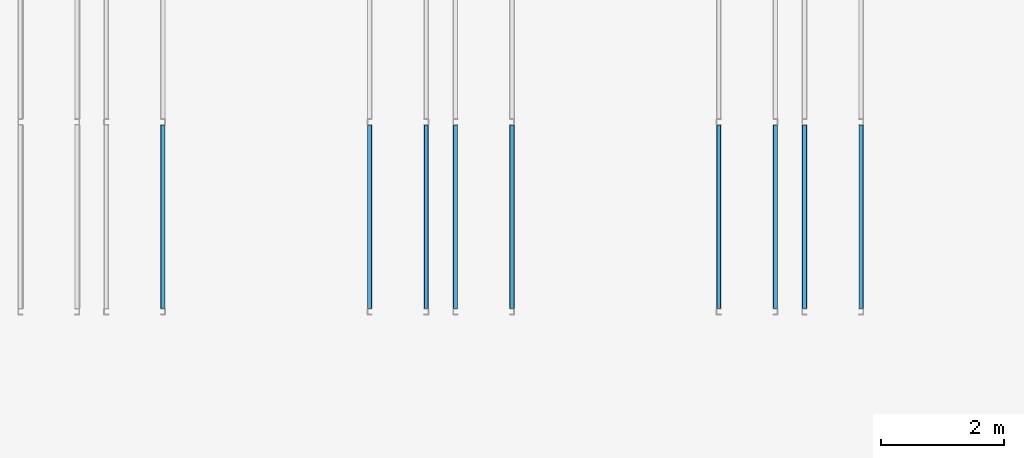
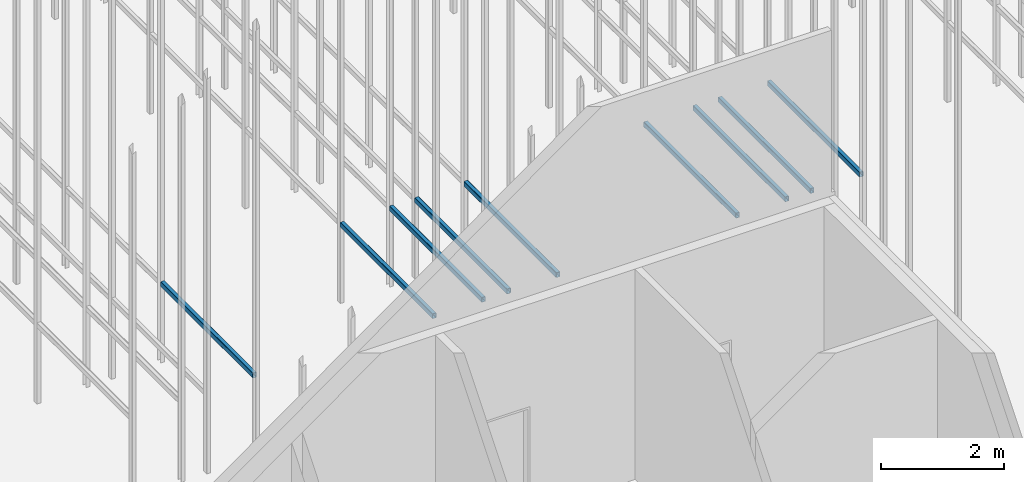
# One storey, part 139 of 302: 9 beams.
"""IFC2X3 building model written with IfcOpenShell, lengths in metres."""

from ifc_helpers import new_model, entity, si_unit, converted_unit, derived_unit, direction, frame, frame_2d, origin, place, context, subcontext, project, spatial, polyline, circle_curve, parameter, trimmed, segment, composite_curve, outline, extrude, material, type_object, element, save


model = new_model("IFC2X3")

# Units and contexts
model_context = context("Model", 3, precision=1e-05, world=origin(), true_north=direction((6.12303176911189e-17, 1.0)))
body_context = subcontext(model_context, "Body", "Model", "MODEL_VIEW")
ifc_project = project(units=[si_unit("LENGTHUNIT", "METRE"), si_unit("AREAUNIT", "SQUARE_METRE"), si_unit("VOLUMEUNIT", "CUBIC_METRE"), converted_unit("PLANEANGLEUNIT", "DEGREE", entity("IfcRatioMeasure", 0.0174532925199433), si_unit("PLANEANGLEUNIT", "RADIAN"), dimensions=[0, 0, 0, 0, 0, 0, 0]), si_unit("MASSUNIT", "GRAM", prefix="KILO"), derived_unit("MASSDENSITYUNIT", [(si_unit("MASSUNIT", "GRAM", prefix="KILO"), 1), (si_unit("LENGTHUNIT", "METRE"), -3)]), derived_unit("MOMENTOFINERTIAUNIT", [(si_unit("LENGTHUNIT", "METRE"), 4)]), si_unit("TIMEUNIT", "SECOND"), si_unit("FREQUENCYUNIT", "HERTZ"), si_unit("THERMODYNAMICTEMPERATUREUNIT", "DEGREE_CELSIUS"), derived_unit("THERMALTRANSMITTANCEUNIT", [(si_unit("MASSUNIT", "GRAM", prefix="KILO"), 1), (si_unit("THERMODYNAMICTEMPERATUREUNIT", "KELVIN"), -1), (si_unit("TIMEUNIT", "SECOND"), -3)]), derived_unit("VOLUMETRICFLOWRATEUNIT", [(si_unit("LENGTHUNIT", "METRE"), 3), (si_unit("TIMEUNIT", "SECOND"), -1)]), si_unit("ELECTRICCURRENTUNIT", "AMPERE"), si_unit("ELECTRICVOLTAGEUNIT", "VOLT"), si_unit("POWERUNIT", "WATT"), si_unit("FORCEUNIT", "NEWTON", prefix="KILO"), si_unit("ILLUMINANCEUNIT", "LUX"), si_unit("LUMINOUSFLUXUNIT", "LUMEN"), si_unit("LUMINOUSINTENSITYUNIT", "CANDELA"), derived_unit("USERDEFINED", [(si_unit("MASSUNIT", "GRAM", prefix="KILO"), -1), (si_unit("LENGTHUNIT", "METRE"), -2), (si_unit("TIMEUNIT", "SECOND"), 3), (si_unit("LUMINOUSFLUXUNIT", "LUMEN"), 1)]), derived_unit("LINEARVELOCITYUNIT", [(si_unit("LENGTHUNIT", "METRE"), 1), (si_unit("TIMEUNIT", "SECOND"), -1)]), si_unit("PRESSUREUNIT", "PASCAL"), derived_unit("USERDEFINED", [(si_unit("LENGTHUNIT", "METRE"), -2), (si_unit("MASSUNIT", "GRAM", prefix="KILO"), 1), (si_unit("TIMEUNIT", "SECOND"), -2)]), derived_unit("LINEARFORCEUNIT", [(si_unit("MASSUNIT", "GRAM", prefix="KILO"), 1), (si_unit("LENGTHUNIT", "METRE"), 1), (si_unit("TIMEUNIT", "SECOND"), -2), (si_unit("LENGTHUNIT", "METRE"), -1)]), derived_unit("PLANARFORCEUNIT", [(si_unit("MASSUNIT", "GRAM", prefix="KILO"), 1), (si_unit("LENGTHUNIT", "METRE"), 1), (si_unit("TIMEUNIT", "SECOND"), -2), (si_unit("LENGTHUNIT", "METRE"), -2)])], contexts=[model_context])

# Site, building, storey
site_placement = place(None, origin())
site = spatial("IfcSite", under=ifc_project, at=site_placement, Name="Default", CompositionType="ELEMENT")
building_placement = place(site_placement, origin())
building = spatial("IfcBuilding", under=site, at=building_placement, CompositionType="ELEMENT")
storey_placement = place(building_placement, frame((0.0, 0.0, -1.3)))
storey = spatial("IfcBuildingStorey", under=building, at=storey_placement, Name="00_EG", CompositionType="ELEMENT", Elevation=-1.3)

# Beams
ifc_material = material(Name="Metall - Baustahl S235 blau")
beam_type = type_object("IfcBeamType", Name="RHS Träger (EN 10219-2):RHS 100 x 75 x 5", PredefinedType="NOTDEFINED")
beam_1_placement = place(storey_placement, frame((-196.415111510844, 27.148088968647, 2.885), z_axis=(0.0, 0.0, 1.0), x_axis=(0.0, 1.0, 0.0)))
element("IfcBeam", 1, at=beam_1_placement, inside=storey, type_object=beam_type, material=ifc_material, Name="RHS Träger (EN 10219-2):RHS 100 x 75 x 5", ObjectType="RHS Träger (EN 10219-2):RHS 100 x 75 x 5", context=body_context, shape_type="SweptSolid", body=[
    extrude(outline(composite_curve([segment(trimmed(circle_curve(frame_2d((-0.0274999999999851, -0.0400000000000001), x_axis=(1.0, 0.0)), 0.01), [parameter(180.0)], [parameter(270.0)], True, "PARAMETER"), True, "CONTINUOUS"), segment(polyline([(-0.0274999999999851, -0.05), (0.0274999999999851, -0.05)]), True, "CONTINUOUS"), segment(trimmed(circle_curve(frame_2d((0.0274999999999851, -0.0400000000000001), x_axis=(1.0, 0.0)), 0.01), [parameter(270.0)], [parameter(5.08888749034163e-14)], True, "PARAMETER"), True, "CONTINUOUS"), segment(polyline([(0.0375000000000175, -0.0399999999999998), (0.0375000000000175, 0.0400000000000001)]), True, "CONTINUOUS"), segment(trimmed(circle_curve(frame_2d((0.0274999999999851, 0.0399999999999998), x_axis=(1.0, 0.0)), 0.01), [parameter(360.0)], [parameter(89.9999999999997)], True, "PARAMETER"), True, "CONTINUOUS"), segment(polyline([(0.0274999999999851, 0.05), (-0.0274999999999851, 0.05)]), True, "CONTINUOUS"), segment(trimmed(circle_curve(frame_2d((-0.0274999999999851, 0.0399999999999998), x_axis=(1.0, 0.0)), 0.01), [parameter(90.0000000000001)], [parameter(180.0)], True, "PARAMETER"), True, "CONTINUOUS"), segment(polyline([(-0.0374999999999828, 0.0400000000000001), (-0.0374999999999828, -0.0399999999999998)]), True, "CONTINUOUS")], self_intersect=False), holes=[composite_curve([segment(polyline([(0.0274999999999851, -0.0450000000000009), (-0.0274999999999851, -0.0450000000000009)]), True, "CONTINUOUS"), segment(trimmed(circle_curve(frame_2d((-0.0274999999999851, -0.0400000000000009), x_axis=(1.0, 0.0)), 0.005), [parameter(180.0)], [parameter(270.0)], True, "PARAMETER"), False, "CONTINUOUS"), segment(polyline([(-0.0325000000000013, -0.0400000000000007), (-0.0325000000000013, 0.0399999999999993)]), True, "CONTINUOUS"), segment(trimmed(circle_curve(frame_2d((-0.0274999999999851, 0.039999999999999), x_axis=(1.0, 0.0)), 0.005), [parameter(90.0000000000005)], [parameter(180.0)], True, "PARAMETER"), False, "CONTINUOUS"), segment(polyline([(-0.0274999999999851, 0.0449999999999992), (0.0274999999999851, 0.0449999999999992)]), True, "CONTINUOUS"), segment(trimmed(circle_curve(frame_2d((0.0274999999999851, 0.039999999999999), x_axis=(1.0, 0.0)), 0.005), [parameter(0.0)], [parameter(90.0000000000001)], True, "PARAMETER"), False, "CONTINUOUS"), segment(polyline([(0.0325000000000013, 0.0399999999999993), (0.0325000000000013, -0.0400000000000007)]), True, "CONTINUOUS"), segment(trimmed(circle_curve(frame_2d((0.0274999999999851, -0.0400000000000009), x_axis=(1.0, 0.0)), 0.005), [parameter(270.0)], [parameter(4.07110999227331e-13)], True, "PARAMETER"), False, "CONTINUOUS")], self_intersect=False)]), frame((9.99999999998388e-05, 0.0375000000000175, -0.0500000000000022), z_axis=(1.0, 0.0, 0.0), x_axis=(0.0, -1.0, 0.0)), (0.0, 0.0, 1.0), 2.9998),
])
beam_2_placement = place(storey_placement, frame((-195.565111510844, 27.148088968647, 2.885), z_axis=(0.0, 0.0, 1.0), x_axis=(0.0, 1.0, 0.0)))
element("IfcBeam", 2, at=beam_2_placement, inside=storey, type_object=beam_type, material=ifc_material, Name="RHS Träger (EN 10219-2):RHS 100 x 75 x 5", ObjectType="RHS Träger (EN 10219-2):RHS 100 x 75 x 5", context=body_context, shape_type="SweptSolid", body=[
    extrude(outline(composite_curve([segment(polyline([(-0.0399999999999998, -0.0374999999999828), (0.0400000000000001, -0.0374999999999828)]), True, "CONTINUOUS"), segment(trimmed(circle_curve(frame_2d((0.0399999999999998, -0.0274999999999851), x_axis=(0.0, 1.0)), 0.01), [parameter(180.0)], [parameter(270.0)], True, "PARAMETER"), True, "CONTINUOUS"), segment(polyline([(0.05, -0.0274999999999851), (0.05, 0.0274999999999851)]), True, "CONTINUOUS"), segment(trimmed(circle_curve(frame_2d((0.0399999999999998, 0.0274999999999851), x_axis=(0.0, 1.0)), 0.01), [parameter(270.0)], [parameter(4.07110999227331e-13)], True, "PARAMETER"), True, "CONTINUOUS"), segment(polyline([(0.0400000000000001, 0.0375000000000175), (-0.0399999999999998, 0.0375000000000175)]), True, "CONTINUOUS"), segment(trimmed(circle_curve(frame_2d((-0.0400000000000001, 0.0274999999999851), x_axis=(0.0, 1.0)), 0.01), [parameter(360.0)], [parameter(90.0000000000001)], True, "PARAMETER"), True, "CONTINUOUS"), segment(polyline([(-0.05, 0.0274999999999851), (-0.05, -0.0274999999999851)]), True, "CONTINUOUS"), segment(trimmed(circle_curve(frame_2d((-0.0400000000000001, -0.0274999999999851), x_axis=(0.0, 1.0)), 0.01), [parameter(90.0000000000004)], [parameter(180.0)], True, "PARAMETER"), True, "CONTINUOUS")], self_intersect=False), holes=[composite_curve([segment(trimmed(circle_curve(frame_2d((-0.0400000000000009, 0.0274999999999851), x_axis=(0.0, 1.0)), 0.005), [parameter(360.0)], [parameter(89.9999999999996)], True, "PARAMETER"), False, "CONTINUOUS"), segment(polyline([(-0.0400000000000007, 0.0325000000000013), (0.0399999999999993, 0.0325000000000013)]), True, "CONTINUOUS"), segment(trimmed(circle_curve(frame_2d((0.039999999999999, 0.0274999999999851), x_axis=(0.0, 1.0)), 0.005), [parameter(270.0)], [parameter(0.0)], True, "PARAMETER"), False, "CONTINUOUS"), segment(polyline([(0.0449999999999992, 0.0274999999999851), (0.0449999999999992, -0.0274999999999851)]), True, "CONTINUOUS"), segment(trimmed(circle_curve(frame_2d((0.039999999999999, -0.0274999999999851), x_axis=(0.0, 1.0)), 0.005), [parameter(180.0)], [parameter(269.999999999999)], True, "PARAMETER"), False, "CONTINUOUS"), segment(polyline([(0.0399999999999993, -0.0325000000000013), (-0.0400000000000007, -0.0325000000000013)]), True, "CONTINUOUS"), segment(trimmed(circle_curve(frame_2d((-0.0400000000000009, -0.0274999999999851), x_axis=(0.0, 1.0)), 0.005), [parameter(90.0000000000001)], [parameter(180.0)], True, "PARAMETER"), False, "CONTINUOUS"), segment(polyline([(-0.0450000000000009, -0.0274999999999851), (-0.0450000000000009, 0.0274999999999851)]), True, "CONTINUOUS")], self_intersect=False)]), frame((9.99999999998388e-05, -0.0375000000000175, -0.0500000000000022), z_axis=(1.0, 0.0, 0.0), x_axis=(0.0, 0.0, -1.0)), (0.0, 0.0, 1.0), 2.9998),
])
beam_3_placement = place(storey_placement, frame((-195.015111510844, 27.148088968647, 2.885), z_axis=(0.0, 0.0, 1.0), x_axis=(0.0, 1.0, 0.0)))
element("IfcBeam", 3, at=beam_3_placement, inside=storey, type_object=beam_type, material=ifc_material, Name="RHS Träger (EN 10219-2):RHS 100 x 75 x 5", ObjectType="RHS Träger (EN 10219-2):RHS 100 x 75 x 5", context=body_context, shape_type="SweptSolid", body=[
    extrude(outline(composite_curve([segment(trimmed(circle_curve(frame_2d((-0.0275000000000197, -0.0400000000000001), x_axis=(1.0, 0.0)), 0.01), [parameter(180.0)], [parameter(270.0)], True, "PARAMETER"), True, "CONTINUOUS"), segment(polyline([(-0.0275000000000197, -0.05), (0.0274999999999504, -0.05)]), True, "CONTINUOUS"), segment(trimmed(circle_curve(frame_2d((0.0274999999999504, -0.0400000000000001), x_axis=(1.0, 0.0)), 0.01), [parameter(270.0)], [parameter(5.08888749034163e-14)], True, "PARAMETER"), True, "CONTINUOUS"), segment(polyline([(0.0374999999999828, -0.0399999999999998), (0.0374999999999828, 0.0400000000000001)]), True, "CONTINUOUS"), segment(trimmed(circle_curve(frame_2d((0.0274999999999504, 0.0399999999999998), x_axis=(1.0, 0.0)), 0.01), [parameter(360.0)], [parameter(89.9999999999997)], True, "PARAMETER"), True, "CONTINUOUS"), segment(polyline([(0.0274999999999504, 0.05), (-0.0275000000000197, 0.05)]), True, "CONTINUOUS"), segment(trimmed(circle_curve(frame_2d((-0.0275000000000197, 0.0399999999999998), x_axis=(1.0, 0.0)), 0.01), [parameter(90.0000000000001)], [parameter(180.0)], True, "PARAMETER"), True, "CONTINUOUS"), segment(polyline([(-0.0375000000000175, 0.0400000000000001), (-0.0375000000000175, -0.0399999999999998)]), True, "CONTINUOUS")], self_intersect=False), holes=[composite_curve([segment(polyline([(0.0274999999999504, -0.0450000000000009), (-0.0275000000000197, -0.0450000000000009)]), True, "CONTINUOUS"), segment(trimmed(circle_curve(frame_2d((-0.0275000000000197, -0.0400000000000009), x_axis=(1.0, 0.0)), 0.005), [parameter(180.0)], [parameter(270.0)], True, "PARAMETER"), False, "CONTINUOUS"), segment(polyline([(-0.0325000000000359, -0.0400000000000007), (-0.0325000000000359, 0.0399999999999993)]), True, "CONTINUOUS"), segment(trimmed(circle_curve(frame_2d((-0.0275000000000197, 0.039999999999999), x_axis=(1.0, 0.0)), 0.005), [parameter(90.0000000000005)], [parameter(180.0)], True, "PARAMETER"), False, "CONTINUOUS"), segment(polyline([(-0.0275000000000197, 0.0449999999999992), (0.0274999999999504, 0.0449999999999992)]), True, "CONTINUOUS"), segment(trimmed(circle_curve(frame_2d((0.0274999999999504, 0.039999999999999), x_axis=(1.0, 0.0)), 0.005), [parameter(0.0)], [parameter(90.0000000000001)], True, "PARAMETER"), False, "CONTINUOUS"), segment(polyline([(0.0324999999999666, 0.0399999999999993), (0.0324999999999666, -0.0400000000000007)]), True, "CONTINUOUS"), segment(trimmed(circle_curve(frame_2d((0.0274999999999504, -0.0400000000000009), x_axis=(1.0, 0.0)), 0.005), [parameter(270.0)], [parameter(4.07110999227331e-13)], True, "PARAMETER"), False, "CONTINUOUS")], self_intersect=False)]), frame((0.00010000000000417, 0.0374999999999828, -0.0500000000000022), z_axis=(1.0, 0.0, 0.0), x_axis=(0.0, -1.0, 0.0)), (0.0, 0.0, 1.0), 2.9998),
])
beam_4_placement = place(storey_placement, frame((-194.165111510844, 27.148088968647, 2.885), z_axis=(0.0, 0.0, 1.0), x_axis=(0.0, 1.0, 0.0)))
element("IfcBeam", 4, at=beam_4_placement, inside=storey, type_object=beam_type, material=ifc_material, Name="RHS Träger (EN 10219-2):RHS 100 x 75 x 5", ObjectType="RHS Träger (EN 10219-2):RHS 100 x 75 x 5", context=body_context, shape_type="SweptSolid", body=[
    extrude(outline(composite_curve([segment(polyline([(-0.0399999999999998, -0.0374999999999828), (0.0400000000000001, -0.0374999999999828)]), True, "CONTINUOUS"), segment(trimmed(circle_curve(frame_2d((0.0399999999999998, -0.0274999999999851), x_axis=(0.0, 1.0)), 0.01), [parameter(180.0)], [parameter(270.0)], True, "PARAMETER"), True, "CONTINUOUS"), segment(polyline([(0.05, -0.0274999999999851), (0.05, 0.0274999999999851)]), True, "CONTINUOUS"), segment(trimmed(circle_curve(frame_2d((0.0399999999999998, 0.0274999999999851), x_axis=(0.0, 1.0)), 0.01), [parameter(270.0)], [parameter(4.07110999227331e-13)], True, "PARAMETER"), True, "CONTINUOUS"), segment(polyline([(0.0400000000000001, 0.0375000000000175), (-0.0399999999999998, 0.0375000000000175)]), True, "CONTINUOUS"), segment(trimmed(circle_curve(frame_2d((-0.0400000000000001, 0.0274999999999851), x_axis=(0.0, 1.0)), 0.01), [parameter(360.0)], [parameter(90.0000000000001)], True, "PARAMETER"), True, "CONTINUOUS"), segment(polyline([(-0.05, 0.0274999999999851), (-0.05, -0.0274999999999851)]), True, "CONTINUOUS"), segment(trimmed(circle_curve(frame_2d((-0.0400000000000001, -0.0274999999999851), x_axis=(0.0, 1.0)), 0.01), [parameter(90.0000000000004)], [parameter(180.0)], True, "PARAMETER"), True, "CONTINUOUS")], self_intersect=False), holes=[composite_curve([segment(trimmed(circle_curve(frame_2d((-0.0400000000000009, 0.0274999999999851), x_axis=(0.0, 1.0)), 0.005), [parameter(360.0)], [parameter(89.9999999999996)], True, "PARAMETER"), False, "CONTINUOUS"), segment(polyline([(-0.0400000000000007, 0.0325000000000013), (0.0399999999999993, 0.0325000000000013)]), True, "CONTINUOUS"), segment(trimmed(circle_curve(frame_2d((0.039999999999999, 0.0274999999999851), x_axis=(0.0, 1.0)), 0.005), [parameter(270.0)], [parameter(0.0)], True, "PARAMETER"), False, "CONTINUOUS"), segment(polyline([(0.0449999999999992, 0.0274999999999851), (0.0449999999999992, -0.0274999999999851)]), True, "CONTINUOUS"), segment(trimmed(circle_curve(frame_2d((0.039999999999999, -0.0274999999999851), x_axis=(0.0, 1.0)), 0.005), [parameter(180.0)], [parameter(269.999999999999)], True, "PARAMETER"), False, "CONTINUOUS"), segment(polyline([(0.0399999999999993, -0.0325000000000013), (-0.0400000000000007, -0.0325000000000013)]), True, "CONTINUOUS"), segment(trimmed(circle_curve(frame_2d((-0.0400000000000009, -0.0274999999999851), x_axis=(0.0, 1.0)), 0.005), [parameter(90.0000000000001)], [parameter(180.0)], True, "PARAMETER"), False, "CONTINUOUS"), segment(polyline([(-0.0450000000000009, -0.0274999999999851), (-0.0450000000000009, 0.0274999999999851)]), True, "CONTINUOUS")], self_intersect=False)]), frame((0.00010000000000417, -0.0375000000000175, -0.0500000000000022), z_axis=(1.0, 0.0, 0.0), x_axis=(0.0, 0.0, -1.0)), (0.0, 0.0, 1.0), 2.9998),
])
beam_5_placement = place(storey_placement, frame((-190.715111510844, 27.148088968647, 2.885), z_axis=(0.0, 0.0, 1.0), x_axis=(0.0, 1.0, 0.0)))
element("IfcBeam", 5, at=beam_5_placement, inside=storey, type_object=beam_type, material=ifc_material, Name="RHS Träger (EN 10219-2):RHS 100 x 75 x 5", ObjectType="RHS Träger (EN 10219-2):RHS 100 x 75 x 5", context=body_context, shape_type="SweptSolid", body=[
    extrude(outline(composite_curve([segment(trimmed(circle_curve(frame_2d((-0.0274999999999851, -0.0400000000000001), x_axis=(1.0, 0.0)), 0.01), [parameter(180.0)], [parameter(270.0)], True, "PARAMETER"), True, "CONTINUOUS"), segment(polyline([(-0.0274999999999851, -0.05), (0.0274999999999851, -0.05)]), True, "CONTINUOUS"), segment(trimmed(circle_curve(frame_2d((0.0274999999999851, -0.0400000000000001), x_axis=(1.0, 0.0)), 0.01), [parameter(270.0)], [parameter(5.08888749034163e-14)], True, "PARAMETER"), True, "CONTINUOUS"), segment(polyline([(0.0375000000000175, -0.0399999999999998), (0.0375000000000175, 0.0400000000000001)]), True, "CONTINUOUS"), segment(trimmed(circle_curve(frame_2d((0.0274999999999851, 0.0399999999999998), x_axis=(1.0, 0.0)), 0.01), [parameter(360.0)], [parameter(89.9999999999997)], True, "PARAMETER"), True, "CONTINUOUS"), segment(polyline([(0.0274999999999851, 0.05), (-0.0274999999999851, 0.05)]), True, "CONTINUOUS"), segment(trimmed(circle_curve(frame_2d((-0.0274999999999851, 0.0399999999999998), x_axis=(1.0, 0.0)), 0.01), [parameter(90.0000000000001)], [parameter(180.0)], True, "PARAMETER"), True, "CONTINUOUS"), segment(polyline([(-0.0374999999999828, 0.0400000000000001), (-0.0374999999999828, -0.0399999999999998)]), True, "CONTINUOUS")], self_intersect=False), holes=[composite_curve([segment(polyline([(0.0274999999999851, -0.0450000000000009), (-0.0274999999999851, -0.0450000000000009)]), True, "CONTINUOUS"), segment(trimmed(circle_curve(frame_2d((-0.0274999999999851, -0.0400000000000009), x_axis=(1.0, 0.0)), 0.005), [parameter(180.0)], [parameter(270.0)], True, "PARAMETER"), False, "CONTINUOUS"), segment(polyline([(-0.0325000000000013, -0.0400000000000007), (-0.0325000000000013, 0.0399999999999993)]), True, "CONTINUOUS"), segment(trimmed(circle_curve(frame_2d((-0.0274999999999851, 0.039999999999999), x_axis=(1.0, 0.0)), 0.005), [parameter(90.0000000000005)], [parameter(180.0)], True, "PARAMETER"), False, "CONTINUOUS"), segment(polyline([(-0.0274999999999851, 0.0449999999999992), (0.0274999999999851, 0.0449999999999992)]), True, "CONTINUOUS"), segment(trimmed(circle_curve(frame_2d((0.0274999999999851, 0.039999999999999), x_axis=(1.0, 0.0)), 0.005), [parameter(0.0)], [parameter(90.0000000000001)], True, "PARAMETER"), False, "CONTINUOUS"), segment(polyline([(0.0325000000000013, 0.0399999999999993), (0.0325000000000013, -0.0400000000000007)]), True, "CONTINUOUS"), segment(trimmed(circle_curve(frame_2d((0.0274999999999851, -0.0400000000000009), x_axis=(1.0, 0.0)), 0.005), [parameter(270.0)], [parameter(4.07110999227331e-13)], True, "PARAMETER"), False, "CONTINUOUS")], self_intersect=False)]), frame((9.99999999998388e-05, 0.0375000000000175, -0.0500000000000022), z_axis=(1.0, 0.0, 0.0), x_axis=(0.0, -1.0, 0.0)), (0.0, 0.0, 1.0), 2.9998),
])
beam_6_placement = place(storey_placement, frame((-189.865111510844, 27.148088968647, 2.885), z_axis=(0.0, 0.0, 1.0), x_axis=(0.0, 1.0, 0.0)))
element("IfcBeam", 6, at=beam_6_placement, inside=storey, type_object=beam_type, material=ifc_material, Name="RHS Träger (EN 10219-2):RHS 100 x 75 x 5", ObjectType="RHS Träger (EN 10219-2):RHS 100 x 75 x 5", context=body_context, shape_type="SweptSolid", body=[
    extrude(outline(composite_curve([segment(polyline([(-0.0399999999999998, -0.0375000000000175), (0.0400000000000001, -0.0375000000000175)]), True, "CONTINUOUS"), segment(trimmed(circle_curve(frame_2d((0.0399999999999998, -0.0275000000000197), x_axis=(0.0, 1.0)), 0.01), [parameter(180.0)], [parameter(270.0)], True, "PARAMETER"), True, "CONTINUOUS"), segment(polyline([(0.05, -0.0275000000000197), (0.05, 0.0274999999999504)]), True, "CONTINUOUS"), segment(trimmed(circle_curve(frame_2d((0.0399999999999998, 0.0274999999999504), x_axis=(0.0, 1.0)), 0.01), [parameter(270.0)], [parameter(4.07110999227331e-13)], True, "PARAMETER"), True, "CONTINUOUS"), segment(polyline([(0.0400000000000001, 0.0374999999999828), (-0.0399999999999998, 0.0374999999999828)]), True, "CONTINUOUS"), segment(trimmed(circle_curve(frame_2d((-0.0400000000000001, 0.0274999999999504), x_axis=(0.0, 1.0)), 0.01), [parameter(360.0)], [parameter(90.0000000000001)], True, "PARAMETER"), True, "CONTINUOUS"), segment(polyline([(-0.05, 0.0274999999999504), (-0.05, -0.0275000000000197)]), True, "CONTINUOUS"), segment(trimmed(circle_curve(frame_2d((-0.0400000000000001, -0.0275000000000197), x_axis=(0.0, 1.0)), 0.01), [parameter(90.0000000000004)], [parameter(180.0)], True, "PARAMETER"), True, "CONTINUOUS")], self_intersect=False), holes=[composite_curve([segment(trimmed(circle_curve(frame_2d((-0.0400000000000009, 0.0274999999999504), x_axis=(0.0, 1.0)), 0.005), [parameter(360.0)], [parameter(89.9999999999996)], True, "PARAMETER"), False, "CONTINUOUS"), segment(polyline([(-0.0400000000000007, 0.0324999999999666), (0.0399999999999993, 0.0324999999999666)]), True, "CONTINUOUS"), segment(trimmed(circle_curve(frame_2d((0.039999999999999, 0.0274999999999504), x_axis=(0.0, 1.0)), 0.005), [parameter(270.0)], [parameter(0.0)], True, "PARAMETER"), False, "CONTINUOUS"), segment(polyline([(0.0449999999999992, 0.0274999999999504), (0.0449999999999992, -0.0275000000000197)]), True, "CONTINUOUS"), segment(trimmed(circle_curve(frame_2d((0.039999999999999, -0.0275000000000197), x_axis=(0.0, 1.0)), 0.005), [parameter(180.0)], [parameter(269.999999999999)], True, "PARAMETER"), False, "CONTINUOUS"), segment(polyline([(0.0399999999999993, -0.0325000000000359), (-0.0400000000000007, -0.0325000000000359)]), True, "CONTINUOUS"), segment(trimmed(circle_curve(frame_2d((-0.0400000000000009, -0.0275000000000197), x_axis=(0.0, 1.0)), 0.005), [parameter(90.0000000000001)], [parameter(180.0)], True, "PARAMETER"), False, "CONTINUOUS"), segment(polyline([(-0.0450000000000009, -0.0275000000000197), (-0.0450000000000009, 0.0274999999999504)]), True, "CONTINUOUS")], self_intersect=False)]), frame((9.99999999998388e-05, -0.0374999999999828, -0.0500000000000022), z_axis=(1.0, 0.0, 0.0), x_axis=(0.0, 0.0, -1.0)), (0.0, 0.0, 1.0), 2.9998),
])
beam_7_placement = place(storey_placement, frame((-189.315111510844, 27.148088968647, 2.885), z_axis=(0.0, 0.0, 1.0), x_axis=(0.0, 1.0, 0.0)))
element("IfcBeam", 7, at=beam_7_placement, inside=storey, type_object=beam_type, material=ifc_material, Name="RHS Träger (EN 10219-2):RHS 100 x 75 x 5", ObjectType="RHS Träger (EN 10219-2):RHS 100 x 75 x 5", context=body_context, shape_type="SweptSolid", body=[
    extrude(outline(composite_curve([segment(trimmed(circle_curve(frame_2d((-0.0274999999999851, -0.0400000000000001), x_axis=(1.0, 0.0)), 0.01), [parameter(180.0)], [parameter(270.0)], True, "PARAMETER"), True, "CONTINUOUS"), segment(polyline([(-0.0274999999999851, -0.05), (0.0274999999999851, -0.05)]), True, "CONTINUOUS"), segment(trimmed(circle_curve(frame_2d((0.0274999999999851, -0.0400000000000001), x_axis=(1.0, 0.0)), 0.01), [parameter(270.0)], [parameter(5.08888749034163e-14)], True, "PARAMETER"), True, "CONTINUOUS"), segment(polyline([(0.0375000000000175, -0.0399999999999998), (0.0375000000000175, 0.0400000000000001)]), True, "CONTINUOUS"), segment(trimmed(circle_curve(frame_2d((0.0274999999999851, 0.0399999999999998), x_axis=(1.0, 0.0)), 0.01), [parameter(360.0)], [parameter(89.9999999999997)], True, "PARAMETER"), True, "CONTINUOUS"), segment(polyline([(0.0274999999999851, 0.05), (-0.0274999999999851, 0.05)]), True, "CONTINUOUS"), segment(trimmed(circle_curve(frame_2d((-0.0274999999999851, 0.0399999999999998), x_axis=(1.0, 0.0)), 0.01), [parameter(90.0000000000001)], [parameter(180.0)], True, "PARAMETER"), True, "CONTINUOUS"), segment(polyline([(-0.0374999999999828, 0.0400000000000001), (-0.0374999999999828, -0.0399999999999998)]), True, "CONTINUOUS")], self_intersect=False), holes=[composite_curve([segment(polyline([(0.0274999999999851, -0.0450000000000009), (-0.0274999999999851, -0.0450000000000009)]), True, "CONTINUOUS"), segment(trimmed(circle_curve(frame_2d((-0.0274999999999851, -0.0400000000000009), x_axis=(1.0, 0.0)), 0.005), [parameter(180.0)], [parameter(270.0)], True, "PARAMETER"), False, "CONTINUOUS"), segment(polyline([(-0.0325000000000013, -0.0400000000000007), (-0.0325000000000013, 0.0399999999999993)]), True, "CONTINUOUS"), segment(trimmed(circle_curve(frame_2d((-0.0274999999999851, 0.039999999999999), x_axis=(1.0, 0.0)), 0.005), [parameter(90.0000000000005)], [parameter(180.0)], True, "PARAMETER"), False, "CONTINUOUS"), segment(polyline([(-0.0274999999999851, 0.0449999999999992), (0.0274999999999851, 0.0449999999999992)]), True, "CONTINUOUS"), segment(trimmed(circle_curve(frame_2d((0.0274999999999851, 0.039999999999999), x_axis=(1.0, 0.0)), 0.005), [parameter(0.0)], [parameter(90.0000000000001)], True, "PARAMETER"), False, "CONTINUOUS"), segment(polyline([(0.0325000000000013, 0.0399999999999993), (0.0325000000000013, -0.0400000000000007)]), True, "CONTINUOUS"), segment(trimmed(circle_curve(frame_2d((0.0274999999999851, -0.0400000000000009), x_axis=(1.0, 0.0)), 0.005), [parameter(270.0)], [parameter(4.07110999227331e-13)], True, "PARAMETER"), False, "CONTINUOUS")], self_intersect=False)]), frame((0.00010000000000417, 0.0375000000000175, -0.0500000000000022), z_axis=(1.0, 0.0, 0.0), x_axis=(0.0, -1.0, 0.0)), (0.0, 0.0, 1.0), 2.9998),
])
beam_8_placement = place(storey_placement, frame((-188.465111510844, 27.148088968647, 2.885), z_axis=(0.0, 0.0, 1.0), x_axis=(0.0, 1.0, 0.0)))
element("IfcBeam", 8, at=beam_8_placement, inside=storey, type_object=beam_type, material=ifc_material, Name="RHS Träger (EN 10219-2):RHS 100 x 75 x 5", ObjectType="RHS Träger (EN 10219-2):RHS 100 x 75 x 5", context=body_context, shape_type="SweptSolid", body=[
    extrude(outline(composite_curve([segment(polyline([(-0.0399999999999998, -0.0374999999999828), (0.0400000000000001, -0.0374999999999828)]), True, "CONTINUOUS"), segment(trimmed(circle_curve(frame_2d((0.0399999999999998, -0.0274999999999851), x_axis=(0.0, 1.0)), 0.01), [parameter(180.0)], [parameter(270.0)], True, "PARAMETER"), True, "CONTINUOUS"), segment(polyline([(0.05, -0.0274999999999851), (0.05, 0.0274999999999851)]), True, "CONTINUOUS"), segment(trimmed(circle_curve(frame_2d((0.0399999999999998, 0.0274999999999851), x_axis=(0.0, 1.0)), 0.01), [parameter(270.0)], [parameter(4.07110999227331e-13)], True, "PARAMETER"), True, "CONTINUOUS"), segment(polyline([(0.0400000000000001, 0.0375000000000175), (-0.0399999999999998, 0.0375000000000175)]), True, "CONTINUOUS"), segment(trimmed(circle_curve(frame_2d((-0.0400000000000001, 0.0274999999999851), x_axis=(0.0, 1.0)), 0.01), [parameter(360.0)], [parameter(90.0000000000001)], True, "PARAMETER"), True, "CONTINUOUS"), segment(polyline([(-0.05, 0.0274999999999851), (-0.05, -0.0274999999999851)]), True, "CONTINUOUS"), segment(trimmed(circle_curve(frame_2d((-0.0400000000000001, -0.0274999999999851), x_axis=(0.0, 1.0)), 0.01), [parameter(90.0000000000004)], [parameter(180.0)], True, "PARAMETER"), True, "CONTINUOUS")], self_intersect=False), holes=[composite_curve([segment(trimmed(circle_curve(frame_2d((-0.0400000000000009, 0.0274999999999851), x_axis=(0.0, 1.0)), 0.005), [parameter(360.0)], [parameter(89.9999999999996)], True, "PARAMETER"), False, "CONTINUOUS"), segment(polyline([(-0.0400000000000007, 0.0325000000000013), (0.0399999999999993, 0.0325000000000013)]), True, "CONTINUOUS"), segment(trimmed(circle_curve(frame_2d((0.039999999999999, 0.0274999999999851), x_axis=(0.0, 1.0)), 0.005), [parameter(270.0)], [parameter(0.0)], True, "PARAMETER"), False, "CONTINUOUS"), segment(polyline([(0.0449999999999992, 0.0274999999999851), (0.0449999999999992, -0.0274999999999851)]), True, "CONTINUOUS"), segment(trimmed(circle_curve(frame_2d((0.039999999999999, -0.0274999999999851), x_axis=(0.0, 1.0)), 0.005), [parameter(180.0)], [parameter(269.999999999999)], True, "PARAMETER"), False, "CONTINUOUS"), segment(polyline([(0.0399999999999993, -0.0325000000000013), (-0.0400000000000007, -0.0325000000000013)]), True, "CONTINUOUS"), segment(trimmed(circle_curve(frame_2d((-0.0400000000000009, -0.0274999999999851), x_axis=(0.0, 1.0)), 0.005), [parameter(90.0000000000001)], [parameter(180.0)], True, "PARAMETER"), False, "CONTINUOUS"), segment(polyline([(-0.0450000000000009, -0.0274999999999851), (-0.0450000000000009, 0.0274999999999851)]), True, "CONTINUOUS")], self_intersect=False)]), frame((0.00010000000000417, -0.0375000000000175, -0.0500000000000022), z_axis=(1.0, 0.0, 0.0), x_axis=(0.0, 0.0, -1.0)), (0.0, 0.0, 1.0), 2.9998),
])
beam_9_placement = place(storey_placement, frame((-199.865111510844, 27.148088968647, 2.885), z_axis=(0.0, 0.0, 1.0), x_axis=(0.0, 1.0, 0.0)))
element("IfcBeam", 9, at=beam_9_placement, inside=storey, type_object=beam_type, material=ifc_material, Name="RHS Träger (EN 10219-2):RHS 100 x 75 x 5", ObjectType="RHS Träger (EN 10219-2):RHS 100 x 75 x 5", context=body_context, shape_type="SweptSolid", body=[
    extrude(outline(composite_curve([segment(polyline([(-0.0399999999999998, -0.0374999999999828), (0.0400000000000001, -0.0374999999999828)]), True, "CONTINUOUS"), segment(trimmed(circle_curve(frame_2d((0.0399999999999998, -0.0274999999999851), x_axis=(0.0, 1.0)), 0.01), [parameter(180.0)], [parameter(270.0)], True, "PARAMETER"), True, "CONTINUOUS"), segment(polyline([(0.05, -0.0274999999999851), (0.05, 0.0274999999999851)]), True, "CONTINUOUS"), segment(trimmed(circle_curve(frame_2d((0.0399999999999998, 0.0274999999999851), x_axis=(0.0, 1.0)), 0.01), [parameter(270.0)], [parameter(4.07110999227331e-13)], True, "PARAMETER"), True, "CONTINUOUS"), segment(polyline([(0.0400000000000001, 0.0375000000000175), (-0.0399999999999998, 0.0375000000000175)]), True, "CONTINUOUS"), segment(trimmed(circle_curve(frame_2d((-0.0400000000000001, 0.0274999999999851), x_axis=(0.0, 1.0)), 0.01), [parameter(360.0)], [parameter(90.0000000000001)], True, "PARAMETER"), True, "CONTINUOUS"), segment(polyline([(-0.05, 0.0274999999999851), (-0.05, -0.0274999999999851)]), True, "CONTINUOUS"), segment(trimmed(circle_curve(frame_2d((-0.0400000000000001, -0.0274999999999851), x_axis=(0.0, 1.0)), 0.01), [parameter(90.0000000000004)], [parameter(180.0)], True, "PARAMETER"), True, "CONTINUOUS")], self_intersect=False), holes=[composite_curve([segment(trimmed(circle_curve(frame_2d((-0.0400000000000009, 0.0274999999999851), x_axis=(0.0, 1.0)), 0.005), [parameter(360.0)], [parameter(89.9999999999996)], True, "PARAMETER"), False, "CONTINUOUS"), segment(polyline([(-0.0400000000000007, 0.0325000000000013), (0.0399999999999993, 0.0325000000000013)]), True, "CONTINUOUS"), segment(trimmed(circle_curve(frame_2d((0.039999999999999, 0.0274999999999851), x_axis=(0.0, 1.0)), 0.005), [parameter(270.0)], [parameter(0.0)], True, "PARAMETER"), False, "CONTINUOUS"), segment(polyline([(0.0449999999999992, 0.0274999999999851), (0.0449999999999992, -0.0274999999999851)]), True, "CONTINUOUS"), segment(trimmed(circle_curve(frame_2d((0.039999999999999, -0.0274999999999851), x_axis=(0.0, 1.0)), 0.005), [parameter(180.0)], [parameter(269.999999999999)], True, "PARAMETER"), False, "CONTINUOUS"), segment(polyline([(0.0399999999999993, -0.0325000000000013), (-0.0400000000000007, -0.0325000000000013)]), True, "CONTINUOUS"), segment(trimmed(circle_curve(frame_2d((-0.0400000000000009, -0.0274999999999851), x_axis=(0.0, 1.0)), 0.005), [parameter(90.0000000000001)], [parameter(180.0)], True, "PARAMETER"), False, "CONTINUOUS"), segment(polyline([(-0.0450000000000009, -0.0274999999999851), (-0.0450000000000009, 0.0274999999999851)]), True, "CONTINUOUS")], self_intersect=False)]), frame((9.99999999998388e-05, -0.0375000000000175, -0.0500000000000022), z_axis=(1.0, 0.0, 0.0), x_axis=(0.0, 0.0, -1.0)), (0.0, 0.0, 1.0), 2.9998),
])

save(model, "model.ifc")
